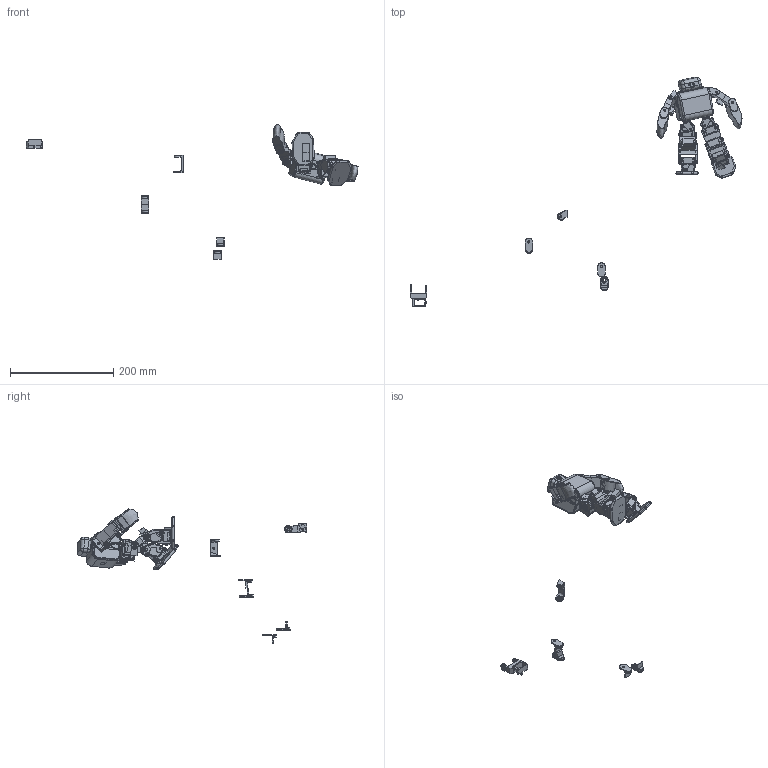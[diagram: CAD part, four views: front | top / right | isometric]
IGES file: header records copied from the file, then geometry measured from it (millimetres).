
Start section: SolidWorks IGES file using analytic representation for surfaces
Bounding box: 642.55 x 444.48 x 260.2 mm (x, y, z)
Surface area: 183244.1 mm2 (no closed solid volume)
Topology: 0 solids, 0 shells, 2831 faces, 30519 edges, 30513 vertices
Faces by surface type: bspline 2065, revolution 766
